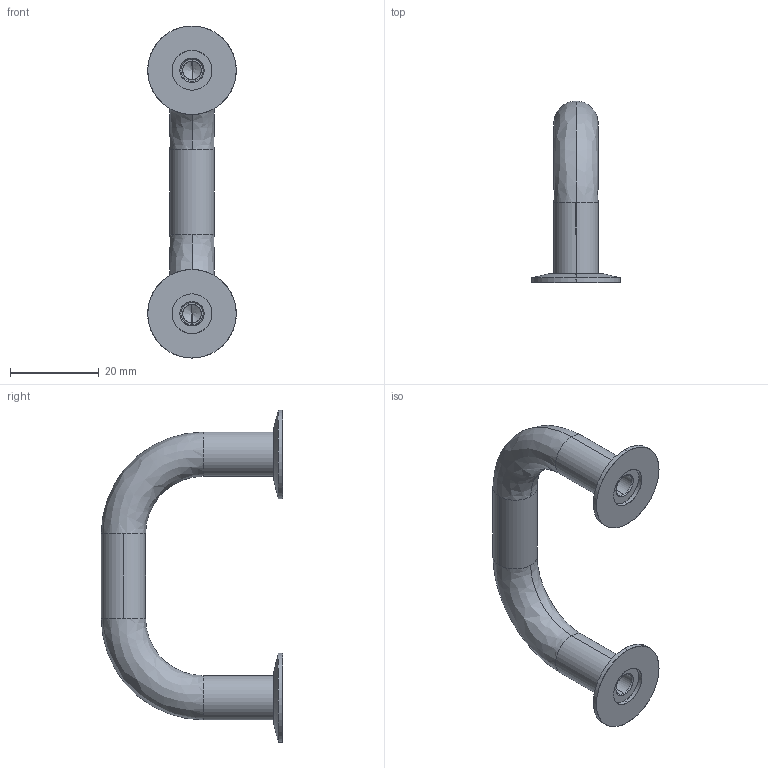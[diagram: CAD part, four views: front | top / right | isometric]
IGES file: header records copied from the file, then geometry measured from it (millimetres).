
Start section: SolidWorks IGES file using analytic representation for surfaces
Global section: file name: C:\Documents and Settings\IANO\Desktop\Temp File\Process pending\PCN pending\78700_v2\78700_v2_20170116_IGES\78700.W0505.igs; native system: SolidWorks 2009; preprocessor: SolidWorks 2009; author: IANO; date: 170310.095753; units: millimetre
Bounding box: 20 x 41 x 75 mm (x, y, z)
Surface area: 5163.7 mm2 (no closed solid volume)
Topology: 0 solids, 0 shells, 52 faces, 816 edges, 812 vertices
Faces by surface type: revolution 38, bspline 14
